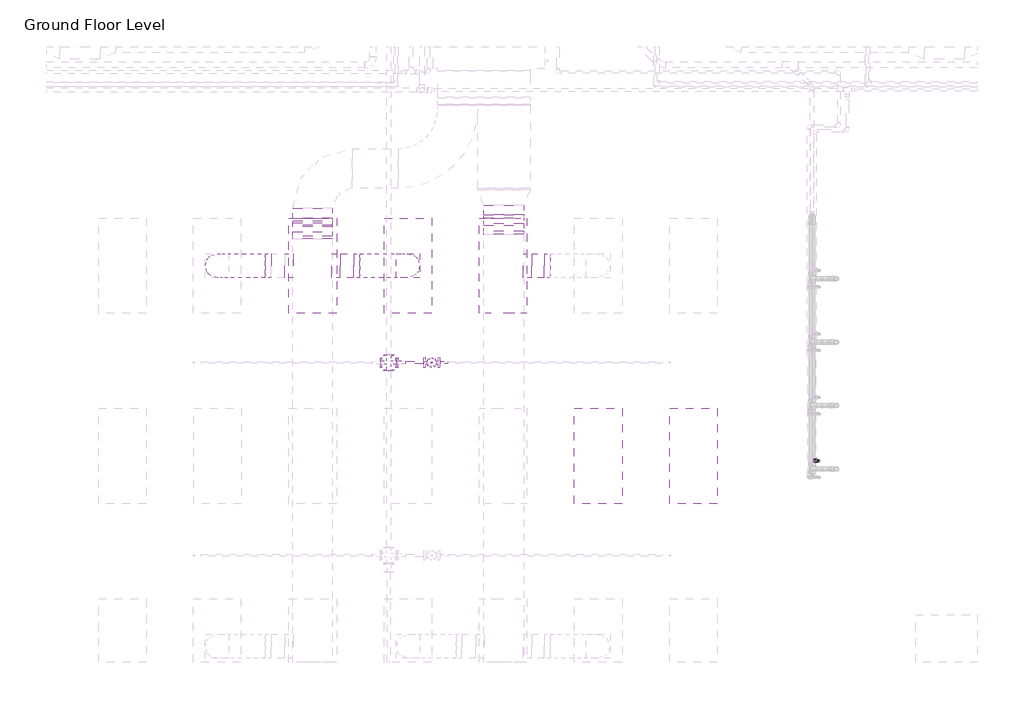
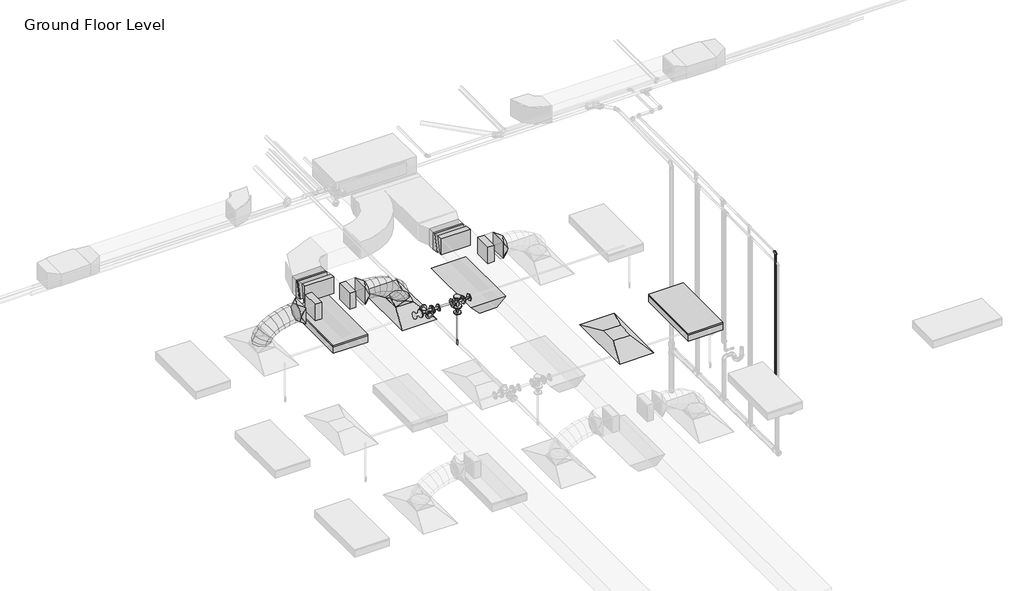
# One storey, part 49 of 74: 12 duct fittings, 8 duct segments, 7 pipe fittings, 4 pipe segments, 3 light fixtures, 2 air terminals, 1 fire suppression terminal.
"""IFC4 building model written with IfcOpenShell, lengths in millimetres."""

from ifc_helpers import new_model, si_unit, point, frame, frame_2d, origin, place, context, project, spatial, polyline, circle_curve, ellipse_curve, trimmed, segment, composite_curve, outline, extrude, transform, mapped, element, save
from ifc_brep_helpers import plane_surface, cylinder_surface, advanced_brep
from components import m_return_diffuser_1200x600_1200_x_600_face_300_x_300_d1983ef6, m_rectangular_elbow_radius_1_w_f78a0081, m_rectangular_elbow_radius_1_w_1a1d0e92, m_rectangular_takeoff_standard_cb0ccb98, m_rectangular_takeoff_standard_2be5eba1, m_rectangular_transition_angle_45_degree_8d40617b, m_rectangular_to_round_transition_angle_45_degree_641efff0, m_sprinkler_dry_pendent_hosted_15_mm_dry_pendent_9bda8e11, m_emergency_recessed_lighting_fixture_600x1200_277_5b10b25d, m_troffer_light_parabolic_rectangular1_0600x1200mm_4_lamp_86473d4a, m_cross_flanged_cs_class_150_standard_fc817054, m_reducer_flanged_cs_class_150_standard_ccf252ad, m_reducer_flanged_cs_class_150_standard_d42b2106, m_reducer_flanged_cs_class_150_standard_8338f9e4, m_tee_round_base_flanged_cs_class_150_standard_7e5987a1, standard_b266ab3f

model = new_model("IFC4")

# Units and contexts
model_context = context("Model", 3, world=origin())
ifc_project = project(units=[si_unit("LENGTHUNIT", "METRE", prefix="MILLI")], contexts=[model_context])

# Site, building, storey
site = spatial("IfcSite", under=ifc_project)
building = spatial("IfcBuilding", under=site)
storey = spatial("IfcBuildingStorey", under=building, Name="Ground Floor Level", Elevation=900.0)

# Air terminals
placement = place(None, origin())
m_return_diffuser_1200x600_1200_x_600_face_300_x_300_shape = m_return_diffuser_1200x600_1200_x_600_face_300_x_300_d1983ef6(model_context)
element("IfcAirTerminal", 1, ObjectType="M_Return Diffuser 1200x600 : 1200 x 600 Face 300 x 300 Connection", at=placement, inside=storey, context=model_context, shape_type="MappedRepresentation", body=[
    mapped(m_return_diffuser_1200x600_1200_x_600_face_300_x_300_shape, transform((-3337.2327605, 8835.2153534, 3650.0), x_axis=(0.0, 1.0, 0.0), y_axis=(-1.0, 0.0, 0.0), z_axis=(0.0, 0.0, 1.0))),
])
element("IfcAirTerminal", 2, ObjectType="M_Supply Diffuser 1200x600 : 1200 x 600 Face 300 x 300 Connection", at=placement, inside=storey, context=model_context, shape_type="MappedRepresentation", body=[
    mapped(m_return_diffuser_1200x600_1200_x_600_face_300_x_300_shape, transform((-5737.2327605, 11235.2153534, 3650.0), x_axis=(0.0, 1.0, 0.0), y_axis=(-1.0, 0.0, 0.0), z_axis=(0.0, 0.0, 1.0))),
])

# Duct fittings
m_rectangular_elbow_radius_1_w_shape = m_rectangular_elbow_radius_1_w_f78a0081(model_context)
element("IfcDuctFitting", 3, ObjectType="M_Rectangular Elbow - Radius : 1 W", at=placement, inside=storey, context=model_context, shape_type="MappedRepresentation", body=[
    mapped(m_rectangular_elbow_radius_1_w_shape, transform((-4528.6910789, 11671.1593756, 4149.9980527), x_axis=(0.0, 0.999999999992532, -3.864729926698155e-06), y_axis=(0.0, -3.864729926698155e-06, -0.999999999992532), z_axis=(-1.0, 0.0, 0.0))),
])
element("IfcDuctFitting", 4, ObjectType="M_Rectangular Elbow - Radius : 1 W", at=placement, inside=storey, context=model_context, shape_type="MappedRepresentation", body=[
    mapped(m_rectangular_elbow_radius_1_w_shape, transform((-4528.6910789, 11835.9032855, 4107.134916), x_axis=(0.0, -0.999999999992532, 3.864729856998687e-06), y_axis=(0.0, 3.864729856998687e-06, 0.999999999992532), z_axis=(-1.0, 0.0, 0.0))),
])
m_rectangular_elbow_radius_1_w_2_shape = m_rectangular_elbow_radius_1_w_1a1d0e92(model_context)
element("IfcDuctFitting", 5, ObjectType="M_Rectangular Elbow - Radius : 1 W", at=placement, inside=storey, context=model_context, shape_type="MappedRepresentation", body=[
    mapped(m_rectangular_elbow_radius_1_w_2_shape, transform((-6939.6910789, 11605.2153534, 4150.0), x_axis=(0.0, 1.0, 0.0), y_axis=(-4.8368849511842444e-06, 0.0, -0.9999999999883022), z_axis=(-0.9999999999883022, 0.0, 4.8368849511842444e-06))),
])
element("IfcDuctFitting", 6, ObjectType="M_Rectangular Elbow - Radius : 1 W", at=placement, inside=storey, context=model_context, shape_type="MappedRepresentation", body=[
    mapped(m_rectangular_elbow_radius_1_w_2_shape, transform((-6939.6912607, 11801.8710367, 4107.1399598), x_axis=(0.0, -1.0, 0.0), y_axis=(4.836885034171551e-06, 0.0, 0.9999999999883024), z_axis=(-0.9999999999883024, 0.0, 4.836885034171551e-06))),
])
m_rectangular_takeoff_standard_shape = m_rectangular_takeoff_standard_cb0ccb98(model_context)
element("IfcDuctFitting", 7, ObjectType="M_Rectangular Takeoff : Standard", at=placement, inside=storey, context=model_context, shape_type="MappedRepresentation", body=[
    mapped(m_rectangular_takeoff_standard_shape, transform((-4278.6910789, 11235.2153534, 4150.0), x_axis=(1.0, 0.0, 0.0), y_axis=(0.0, -1.0, 0.0), z_axis=(0.0, 0.0, -1.0))),
])
element("IfcDuctFitting", 8, ObjectType="M_Rectangular Takeoff : Standard", at=placement, inside=storey, context=model_context, shape_type="MappedRepresentation", body=[
    mapped(m_rectangular_takeoff_standard_shape, transform((-6689.6910789, 11235.2153534, 4150.0), x_axis=(1.0, 0.0, 0.0), y_axis=(0.0, -1.0, 0.0), z_axis=(0.0, 0.0, -1.0))),
])
m_rectangular_takeoff_standard_2_shape = m_rectangular_takeoff_standard_2be5eba1(model_context)
element("IfcDuctFitting", 9, ObjectType="M_Rectangular Takeoff : Standard", at=placement, inside=storey, context=model_context, shape_type="MappedRepresentation", body=[
    mapped(m_rectangular_takeoff_standard_2_shape, transform((-7189.6910789, 11235.2153534, 4150.0), x_axis=(-1.0, 0.0, 0.0), y_axis=(0.0, 1.0, 0.0), z_axis=(0.0, 0.0, -1.0))),
])
m_rectangular_transition_angle_45_degree_shape = m_rectangular_transition_angle_45_degree_8d40617b(model_context)
element("IfcDuctFitting", 10, ObjectType="M_Rectangular Transition - Angle : 45 Degree", at=placement, inside=storey, context=model_context, shape_type="MappedRepresentation", body=[
    mapped(m_rectangular_transition_angle_45_degree_shape, transform((-6939.6912351, 11774.1025359, 4112.4195134), x_axis=(9.034404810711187e-07, -0.9824014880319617, 0.18678146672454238), y_axis=(0.9999999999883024, 0.0, -4.836885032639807e-06), z_axis=(4.751763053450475e-06, 0.1867814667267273, 0.9824014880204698))),
])
m_rectangular_to_round_transition_angle_45_degree_shape = m_rectangular_to_round_transition_angle_45_degree_641efff0(model_context)
element("IfcDuctFitting", 11, ObjectType="M_Rectangular to Round Transition - Angle : 45 Degree", at=placement, inside=storey, context=model_context, shape_type="MappedRepresentation", body=[
    mapped(m_rectangular_to_round_transition_angle_45_degree_shape, transform((-7461.2487616, 11235.2153534, 4150.0), x_axis=(-1.0, 0.0, 0.0), y_axis=(0.0, -1.0, 0.0), z_axis=(0.0, 0.0, 1.0))),
])
element("IfcDuctFitting", 12, ObjectType="M_Rectangular to Round Transition - Angle : 45 Degree", at=placement, inside=storey, context=model_context, shape_type="MappedRepresentation", body=[
    mapped(m_rectangular_to_round_transition_angle_45_degree_shape, transform((-5737.2327605, 11235.2153534, 3751.6), x_axis=(0.0, 0.0, 1.0), y_axis=(-1.0, 0.0, 0.0), z_axis=(0.0, -1.0, 0.0))),
])
element("IfcDuctFitting", 13, ObjectType="M_Rectangular to Round Transition - Angle : 45 Degree", at=placement, inside=storey, context=model_context, shape_type="MappedRepresentation", body=[
    mapped(m_rectangular_to_round_transition_angle_45_degree_shape, transform((-6418.6686918, 11235.2153534, 4150.0), x_axis=(1.0, 0.0, 0.0), y_axis=(0.0, 1.0, 0.0), z_axis=(0.0, 0.0, 1.0))),
])
element("IfcDuctFitting", 14, ObjectType="M_Rectangular to Round Transition - Angle : 45 Degree", at=placement, inside=storey, context=model_context, shape_type="MappedRepresentation", body=[
    mapped(m_rectangular_to_round_transition_angle_45_degree_shape, transform((-4018.6725245, 11235.2153534, 4150.0), x_axis=(1.0, 0.0, 0.0), y_axis=(0.0, 1.0, 0.0), z_axis=(0.0, 0.0, 1.0))),
])

# Duct segments
element("IfcDuctSegment", 15, ObjectType="Flex - Round", at=placement, inside=storey, context=model_context, shape_type="AdvancedBrep", body=[
    advanced_brep(
    [(-7992.6846929, 11235.2153534, 3826.6), (-8142.6846929, 11085.2153534, 3826.6), (-8292.6846929, 11235.2153534, 3826.6), (-8142.6846929, 11385.2153534, 3826.6), (-7992.6846929, 11235.2153534, 3832.4838104), (-8142.6846929, 11085.2153534, 3857.3049615), (-8292.6846929, 11235.2153534, 3882.1261126), (-8142.6846929, 11385.2153534, 3857.3049615), (-7990.555208, 11235.2153534, 3838.7421096), (-8126.0232883, 11085.2153534, 3906.2708192), (-8261.4913687, 11235.2153534, 3973.7995287), (-8126.0232883, 11385.2153534, 3906.2708192), (-7968.5331802, 11235.2153534, 3871.1472855), (-8080.1452707, 11085.2153534, 3973.7798261), (-8191.7573612, 11235.2153534, 4076.4123668), (-8080.1452707, 11385.2153534, 3973.7798261), (-7928.5904556, 11235.2153534, 3903.4915826), (-8011.2099341, 11085.2153534, 4029.6013814), (-8093.8294126, 11235.2153534, 4155.7111802), (-8011.2099341, 11385.2153534, 4029.6013814), (-7865.6682729, 11235.2153534, 3936.1928758), (-7925.3765727, 11085.2153534, 4074.2098454), (-7985.0848725, 11235.2153534, 4212.226815), (-7925.3765727, 11385.2153534, 4074.2098454), (-7786.815881, 11235.2153534, 3963.8479616), (-7828.8044806, 11085.2153534, 4108.0795788), (-7870.7930803, 11235.2153534, 4252.311196), (-7828.8044806, 11385.2153534, 4108.0795788), (-7700.2438983, 11235.2153534, 3984.0509494), (-7727.652952, 11085.2153534, 4131.684942), (-7755.0620057, 11235.2153534, 4279.3189347), (-7727.652952, 11385.2153534, 4131.684942), (-7613.759715, 11235.2153534, 3996.0504424), (-7628.081281, 11085.2153534, 4145.5002956), (-7642.4028469, 11235.2153534, 4294.9501488), (-7628.081281, 11385.2153534, 4145.5002956), (-7539.5984134, 11235.2153534, 4000.0), (-7543.5898089, 11085.2153534, 4150.0), (-7547.5812043, 11235.2153534, 4300.0), (-7543.5898089, 11385.2153534, 4150.0), (-7536.2487616, 11235.2153534, 4000.0), (-7536.2487616, 11385.2153534, 4150.0), (-7536.2487616, 11235.2153534, 4300.0), (-7536.2487616, 11085.2153534, 4150.0)],
    [
        (0, 1, circle_curve(frame((-8142.6846929, 11235.2153534, 3826.6), z_axis=(0.0, 0.0, -1.0), x_axis=(1.0, 0.0, 0.0)), 150.0)),
        (1, 2, circle_curve(frame((-8142.6846929, 11235.2153534, 3826.6), z_axis=(0.0, 0.0, -1.0), x_axis=(1.0, 0.0, 0.0)), 150.0)),
        (2, 3, circle_curve(frame((-8142.6846929, 11235.2153534, 3826.6), z_axis=(0.0, 0.0, -1.0), x_axis=(1.0, 0.0, 0.0)), 150.0)),
        (3, 0, circle_curve(frame((-8142.6846929, 11235.2153534, 3826.6), z_axis=(0.0, 0.0, -1.0), x_axis=(1.0, 0.0, 0.0)), 150.0)),
        (0, 4),
        (4, 5, ellipse_curve(frame((-8142.6846929, 11235.2153534, 3857.3049615), z_axis=(-0.1632543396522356, 0.0, -0.9865840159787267), x_axis=(0.9865840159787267, 0.0, -0.16325433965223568)), 152.039763, 150.0)),
        (5, 1),
        (5, 6, ellipse_curve(frame((-8142.6846929, 11235.2153534, 3857.3049615), z_axis=(-0.1632543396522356, 0.0, -0.9865840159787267), x_axis=(0.9865840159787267, 0.0, -0.16325433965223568)), 152.039763, 150.0)),
        (6, 2),
        (6, 7, ellipse_curve(frame((-8142.6846929, 11235.2153534, 3857.3049615), z_axis=(-0.1632543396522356, 0.0, -0.9865840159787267), x_axis=(0.9865840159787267, 0.0, -0.16325433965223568)), 152.039763, 150.0)),
        (7, 3),
        (7, 4, ellipse_curve(frame((-8142.6846929, 11235.2153534, 3857.3049615), z_axis=(-0.1632543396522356, 0.0, -0.9865840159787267), x_axis=(0.9865840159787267, 0.0, -0.16325433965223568)), 152.039763, 150.0)),
        (4, 8),
        (8, 9, ellipse_curve(frame((-8126.0232883, 11235.2153534, 3906.2708192), z_axis=(-0.4461280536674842, 0.0, -0.8949691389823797), x_axis=(0.8949691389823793, 0.0, -0.4461280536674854)), 151.366203, 150.0)),
        (9, 5),
        (9, 10, ellipse_curve(frame((-8126.0232883, 11235.2153534, 3906.2708192), z_axis=(-0.4461280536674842, 0.0, -0.8949691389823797), x_axis=(0.8949691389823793, 0.0, -0.4461280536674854)), 151.366203, 150.0)),
        (10, 6),
        (10, 11, ellipse_curve(frame((-8126.0232883, 11235.2153534, 3906.2708192), z_axis=(-0.4461280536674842, 0.0, -0.8949691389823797), x_axis=(0.8949691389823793, 0.0, -0.4461280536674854)), 151.366203, 150.0)),
        (11, 7),
        (11, 8, ellipse_curve(frame((-8126.0232883, 11235.2153534, 3906.2708192), z_axis=(-0.4461280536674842, 0.0, -0.8949691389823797), x_axis=(0.8949691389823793, 0.0, -0.4461280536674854)), 151.366203, 150.0)),
        (8, 12),
        (12, 13, ellipse_curve(frame((-8080.1452707, 11235.2153534, 3973.7798261), z_axis=(-0.676875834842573, 0.0, -0.7360972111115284), x_axis=(0.7360972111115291, 0.0, -0.6768758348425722)), 151.6268352, 150.0)),
        (13, 9),
        (13, 14, ellipse_curve(frame((-8080.1452707, 11235.2153534, 3973.7798261), z_axis=(-0.676875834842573, 0.0, -0.7360972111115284), x_axis=(0.7360972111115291, 0.0, -0.6768758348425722)), 151.6268352, 150.0)),
        (14, 10),
        (14, 15, ellipse_curve(frame((-8080.1452707, 11235.2153534, 3973.7798261), z_axis=(-0.676875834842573, 0.0, -0.7360972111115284), x_axis=(0.7360972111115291, 0.0, -0.6768758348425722)), 151.6268352, 150.0)),
        (15, 11),
        (15, 12, ellipse_curve(frame((-8080.1452707, 11235.2153534, 3973.7798261), z_axis=(-0.676875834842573, 0.0, -0.7360972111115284), x_axis=(0.7360972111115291, 0.0, -0.6768758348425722)), 151.6268352, 150.0)),
        (12, 16),
        (16, 17, ellipse_curve(frame((-8011.2099341, 11235.2153534, 4029.6013814), z_axis=(-0.8364738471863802, 0.0, -0.5480068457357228), x_axis=(0.5480068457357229, 0.0, -0.8364738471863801)), 150.7635884, 150.0)),
        (17, 13),
        (17, 18, ellipse_curve(frame((-8011.2099341, 11235.2153534, 4029.6013814), z_axis=(-0.8364738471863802, 0.0, -0.5480068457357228), x_axis=(0.5480068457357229, 0.0, -0.8364738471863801)), 150.7635884, 150.0)),
        (18, 14),
        (18, 19, ellipse_curve(frame((-8011.2099341, 11235.2153534, 4029.6013814), z_axis=(-0.8364738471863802, 0.0, -0.5480068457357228), x_axis=(0.5480068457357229, 0.0, -0.8364738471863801)), 150.7635884, 150.0)),
        (19, 15),
        (19, 16, ellipse_curve(frame((-8011.2099341, 11235.2153534, 4029.6013814), z_axis=(-0.8364738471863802, 0.0, -0.5480068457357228), x_axis=(0.5480068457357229, 0.0, -0.8364738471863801)), 150.7635884, 150.0)),
        (16, 20),
        (20, 21, ellipse_curve(frame((-7925.3765727, 11235.2153534, 4074.2098454), z_axis=(-0.917795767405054, 0.0, -0.3970528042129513), x_axis=(0.3970528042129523, 0.0, -0.9177957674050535)), 150.3787384, 150.0)),
        (21, 17),
        (21, 22, ellipse_curve(frame((-7925.3765727, 11235.2153534, 4074.2098454), z_axis=(-0.917795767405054, 0.0, -0.3970528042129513), x_axis=(0.3970528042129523, 0.0, -0.9177957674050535)), 150.3787384, 150.0)),
        (22, 18),
        (22, 23, ellipse_curve(frame((-7925.3765727, 11235.2153534, 4074.2098454), z_axis=(-0.917795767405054, 0.0, -0.3970528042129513), x_axis=(0.3970528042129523, 0.0, -0.9177957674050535)), 150.3787384, 150.0)),
        (23, 19),
        (23, 20, ellipse_curve(frame((-7925.3765727, 11235.2153534, 4074.2098454), z_axis=(-0.917795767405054, 0.0, -0.3970528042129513), x_axis=(0.3970528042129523, 0.0, -0.9177957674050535)), 150.3787384, 150.0)),
        (20, 24),
        (24, 25, ellipse_curve(frame((-7828.8044806, 11235.2153534, 4108.0795788), z_axis=(-0.9601411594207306, 0.0, -0.2795155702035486), x_axis=(0.27951557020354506, 0.0, -0.9601411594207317)), 150.2191795, 150.0)),
        (25, 21),
        (25, 26, ellipse_curve(frame((-7828.8044806, 11235.2153534, 4108.0795788), z_axis=(-0.9601411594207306, 0.0, -0.2795155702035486), x_axis=(0.27951557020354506, 0.0, -0.9601411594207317)), 150.2191795, 150.0)),
        (26, 22),
        (26, 27, ellipse_curve(frame((-7828.8044806, 11235.2153534, 4108.0795788), z_axis=(-0.9601411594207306, 0.0, -0.2795155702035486), x_axis=(0.27951557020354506, 0.0, -0.9601411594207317)), 150.2191795, 150.0)),
        (27, 23),
        (27, 24, ellipse_curve(frame((-7828.8044806, 11235.2153534, 4108.0795788), z_axis=(-0.9601411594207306, 0.0, -0.2795155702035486), x_axis=(0.27951557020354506, 0.0, -0.9601411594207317)), 150.2191795, 150.0)),
        (24, 28),
        (28, 29, ellipse_curve(frame((-7727.652952, 11235.2153534, 4131.684942), z_axis=(-0.9831991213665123, 0.0, -0.1825362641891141), x_axis=(0.18253626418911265, 0.0, -0.9831991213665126)), 150.1567581, 150.0)),
        (29, 25),
        (29, 30, ellipse_curve(frame((-7727.652952, 11235.2153534, 4131.684942), z_axis=(-0.9831991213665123, 0.0, -0.1825362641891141), x_axis=(0.18253626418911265, 0.0, -0.9831991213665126)), 150.1567581, 150.0)),
        (30, 26),
        (30, 31, ellipse_curve(frame((-7727.652952, 11235.2153534, 4131.684942), z_axis=(-0.9831991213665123, 0.0, -0.1825362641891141), x_axis=(0.18253626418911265, 0.0, -0.9831991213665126)), 150.1567581, 150.0)),
        (31, 27),
        (31, 28, ellipse_curve(frame((-7727.652952, 11235.2153534, 4131.684942), z_axis=(-0.9831991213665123, 0.0, -0.1825362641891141), x_axis=(0.18253626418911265, 0.0, -0.9831991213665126)), 150.1567581, 150.0)),
        (28, 32),
        (32, 33, ellipse_curve(frame((-7628.081281, 11235.2153534, 4145.5002956), z_axis=(-0.9954398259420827, 0.0, -0.09539157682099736), x_axis=(0.09539157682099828, 0.0, -0.9954398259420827)), 150.1344926, 150.0)),
        (33, 29),
        (33, 34, ellipse_curve(frame((-7628.081281, 11235.2153534, 4145.5002956), z_axis=(-0.9954398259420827, 0.0, -0.09539157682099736), x_axis=(0.09539157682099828, 0.0, -0.9954398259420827)), 150.1344926, 150.0)),
        (34, 30),
        (34, 35, ellipse_curve(frame((-7628.081281, 11235.2153534, 4145.5002956), z_axis=(-0.9954398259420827, 0.0, -0.09539157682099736), x_axis=(0.09539157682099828, 0.0, -0.9954398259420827)), 150.1344926, 150.0)),
        (35, 31),
        (35, 32, ellipse_curve(frame((-7628.081281, 11235.2153534, 4145.5002956), z_axis=(-0.9954398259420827, 0.0, -0.09539157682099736), x_axis=(0.09539157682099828, 0.0, -0.9954398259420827)), 150.1344926, 150.0)),
        (32, 36),
        (36, 37, ellipse_curve(frame((-7543.5898089, 11235.2153534, 4150.0), z_axis=(-0.9996461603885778, 0.0, -0.026599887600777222), x_axis=(0.026599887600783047, 0.0, -0.9996461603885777)), 150.0530947, 150.0)),
        (37, 33),
        (37, 38, ellipse_curve(frame((-7543.5898089, 11235.2153534, 4150.0), z_axis=(-0.9996461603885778, 0.0, -0.026599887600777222), x_axis=(0.026599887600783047, 0.0, -0.9996461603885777)), 150.0530947, 150.0)),
        (38, 34),
        (38, 39, ellipse_curve(frame((-7543.5898089, 11235.2153534, 4150.0), z_axis=(-0.9996461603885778, 0.0, -0.026599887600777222), x_axis=(0.026599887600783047, 0.0, -0.9996461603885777)), 150.0530947, 150.0)),
        (39, 35),
        (39, 36, ellipse_curve(frame((-7543.5898089, 11235.2153534, 4150.0), z_axis=(-0.9996461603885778, 0.0, -0.026599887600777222), x_axis=(0.026599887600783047, 0.0, -0.9996461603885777)), 150.0530947, 150.0)),
        (40, 41, circle_curve(frame((-7536.2487616, 11235.2153534, 4150.0), z_axis=(1.0, 0.0, 0.0), x_axis=(0.0, 0.0, -1.0)), 150.0)),
        (41, 42, circle_curve(frame((-7536.2487616, 11235.2153534, 4150.0), z_axis=(1.0, 0.0, 0.0), x_axis=(0.0, 0.0, -1.0)), 150.0)),
        (42, 43, circle_curve(frame((-7536.2487616, 11235.2153534, 4150.0), z_axis=(1.0, 0.0, 0.0), x_axis=(0.0, 0.0, -1.0)), 150.0)),
        (43, 40, circle_curve(frame((-7536.2487616, 11235.2153534, 4150.0), z_axis=(1.0, 0.0, 0.0), x_axis=(0.0, 0.0, -1.0)), 150.0)),
        (36, 40),
        (43, 37),
        (42, 38),
        (41, 39),
    ],
    [
        plane_surface(frame((-8142.6846929, 11085.2153534, 3826.6), z_axis=(0.0, 0.0, -1.0), x_axis=(1.0, 0.0, 0.0))),
        cylinder_surface(frame((-8142.6846929, 11235.2153534, 3826.6), z_axis=(0.0, 0.0, -1.0), x_axis=(1.0, 0.0, 0.0)), 150.0),
        cylinder_surface(frame((-8142.6846929, 11235.2153534, 3857.3049615), z_axis=(-0.32212824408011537, 0.0, -0.946696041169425), x_axis=(0.946696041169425, 0.0, -0.32212824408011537)), 150.0),
        cylinder_surface(frame((-8126.0232883, 11235.2153534, 3906.2708192), z_axis=(-0.5620745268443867, 0.0, -0.8270865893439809), x_axis=(0.8270865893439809, 0.0, -0.5620745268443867)), 150.0),
        cylinder_surface(frame((-8080.1452707, 11235.2153534, 3973.7798261), z_axis=(-0.777152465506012, 0.0, -0.6293123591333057), x_axis=(0.6293123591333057, 0.0, -0.777152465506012)), 150.0),
        cylinder_surface(frame((-8011.2099341, 11235.2153534, 4029.6013814), z_axis=(-0.887322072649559, 0.0, -0.4611502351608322), x_axis=(0.4611502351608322, 0.0, -0.887322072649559)), 150.0),
        cylinder_surface(frame((-7925.3765727, 11235.2153534, 4074.2098454), z_axis=(-0.9436464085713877, 0.0, -0.3309553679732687), x_axis=(0.3309553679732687, 0.0, -0.9436464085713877)), 150.0),
        cylinder_surface(frame((-7828.8044806, 11235.2153534, 4108.0795788), z_axis=(-0.9738340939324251, 0.0, -0.2272601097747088), x_axis=(0.2272601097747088, 0.0, -0.9738340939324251)), 150.0),
        cylinder_surface(frame((-7727.652952, 11235.2153534, 4131.684942), z_axis=(-0.9905113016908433, 0.0, -0.1374312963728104), x_axis=(0.1374312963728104, 0.0, -0.9905113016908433)), 150.0),
        cylinder_surface(frame((-7628.081281, 11235.2153534, 4145.5002956), z_axis=(-0.998584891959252, 0.0, -0.05318095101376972), x_axis=(0.05318095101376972, 0.0, -0.998584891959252)), 150.0),
        plane_surface(frame((-7536.2487616, 11235.2153534, 4000.0), z_axis=(1.0, 0.0, 0.0), x_axis=(0.0, 1.0, 0.0))),
        cylinder_surface(frame((-7543.5898089, 11235.2153534, 4150.0), z_axis=(-1.0, 0.0, 0.0), x_axis=(0.0, 0.0, -1.0)), 150.0),
    ],
    [
        (0, [[1, 2, 3, 4]]),
        (1, [[-1, 5, 6, 7]]),
        (1, [[-2, -7, 8, 9]]),
        (1, [[-3, -9, 10, 11]]),
        (1, [[-4, -11, 12, -5]]),
        (2, [[-6, 13, 14, 15]]),
        (2, [[-8, -15, 16, 17]]),
        (2, [[-10, -17, 18, 19]]),
        (2, [[-12, -19, 20, -13]]),
        (3, [[-14, 21, 22, 23]]),
        (3, [[-16, -23, 24, 25]]),
        (3, [[-18, -25, 26, 27]]),
        (3, [[-20, -27, 28, -21]]),
        (4, [[-22, 29, 30, 31]]),
        (4, [[-24, -31, 32, 33]]),
        (4, [[-26, -33, 34, 35]]),
        (4, [[-28, -35, 36, -29]]),
        (5, [[-30, 37, 38, 39]]),
        (5, [[-32, -39, 40, 41]]),
        (5, [[-34, -41, 42, 43]]),
        (5, [[-36, -43, 44, -37]]),
        (6, [[-38, 45, 46, 47]]),
        (6, [[-40, -47, 48, 49]]),
        (6, [[-42, -49, 50, 51]]),
        (6, [[-44, -51, 52, -45]]),
        (7, [[-46, 53, 54, 55]]),
        (7, [[-48, -55, 56, 57]]),
        (7, [[-50, -57, 58, 59]]),
        (7, [[-52, -59, 60, -53]]),
        (8, [[-54, 61, 62, 63]]),
        (8, [[-56, -63, 64, 65]]),
        (8, [[-58, -65, 66, 67]]),
        (8, [[-60, -67, 68, -61]]),
        (9, [[-62, 69, 70, 71]]),
        (9, [[-64, -71, 72, 73]]),
        (9, [[-66, -73, 74, 75]]),
        (9, [[-68, -75, 76, -69]]),
        (10, [[77, 78, 79, 80]]),
        (11, [[-70, 81, -80, 82]]),
        (11, [[-72, -82, -79, 83]]),
        (11, [[-74, -83, -78, 84]]),
        (11, [[-76, -84, -77, -81]]),
    ],
),
])
element("IfcDuctSegment", 16, ObjectType="Flex - Round", at=placement, inside=storey, context=model_context, shape_type="AdvancedBrep", body=[
    advanced_brep(
    [(-5587.2327605, 11235.2153534, 3826.6), (-5737.2327605, 11085.2153534, 3826.6), (-5887.2327605, 11235.2153534, 3826.6), (-5737.2327605, 11385.2153534, 3826.6), (-5587.2327605, 11235.2153534, 3882.1261126), (-5737.2327605, 11085.2153534, 3857.3049615), (-5887.2327605, 11235.2153534, 3832.4838104), (-5737.2327605, 11385.2153534, 3857.3049615), (-5618.4260847, 11235.2153534, 3973.7995287), (-5753.8941651, 11085.2153534, 3906.2708192), (-5889.3622454, 11235.2153534, 3838.7421096), (-5753.8941651, 11385.2153534, 3906.2708192), (-5688.1600922, 11235.2153534, 4076.4123668), (-5799.7721827, 11085.2153534, 3973.7798261), (-5911.3842733, 11235.2153534, 3871.1472855), (-5799.7721827, 11385.2153534, 3973.7798261), (-5786.0880408, 11235.2153534, 4155.7111802), (-5868.7075193, 11085.2153534, 4029.6013814), (-5951.3269979, 11235.2153534, 3903.4915826), (-5868.7075193, 11385.2153534, 4029.6013814), (-5894.832581, 11235.2153534, 4212.226815), (-5954.5408807, 11085.2153534, 4074.2098454), (-6014.2491805, 11235.2153534, 3936.1928758), (-5954.5408807, 11385.2153534, 4074.2098454), (-6009.1243732, 11235.2153534, 4252.311196), (-6051.1129728, 11085.2153534, 4108.0795788), (-6093.1015724, 11235.2153534, 3963.8479616), (-6051.1129728, 11385.2153534, 4108.0795788), (-6124.8554478, 11235.2153534, 4279.3189347), (-6152.2645014, 11085.2153534, 4131.684942), (-6179.6735551, 11235.2153534, 3984.0509494), (-6152.2645014, 11385.2153534, 4131.684942), (-6237.5146065, 11235.2153534, 4294.9501488), (-6251.8361725, 11085.2153534, 4145.5002956), (-6266.1577385, 11235.2153534, 3996.0504424), (-6251.8361725, 11385.2153534, 4145.5002956), (-6332.3362491, 11235.2153534, 4300.0), (-6336.3276445, 11085.2153534, 4150.0), (-6340.31904, 11235.2153534, 4000.0), (-6336.3276445, 11385.2153534, 4150.0), (-6343.6686918, 11235.2153534, 4300.0), (-6343.6686918, 11385.2153534, 4150.0), (-6343.6686918, 11235.2153534, 4000.0), (-6343.6686918, 11085.2153534, 4150.0)],
    [
        (0, 1, circle_curve(frame((-5737.2327605, 11235.2153534, 3826.6), z_axis=(0.0, 0.0, -1.0), x_axis=(1.0, 0.0, 0.0)), 150.0)),
        (1, 2, circle_curve(frame((-5737.2327605, 11235.2153534, 3826.6), z_axis=(0.0, 0.0, -1.0), x_axis=(1.0, 0.0, 0.0)), 150.0)),
        (2, 3, circle_curve(frame((-5737.2327605, 11235.2153534, 3826.6), z_axis=(0.0, 0.0, -1.0), x_axis=(1.0, 0.0, 0.0)), 150.0)),
        (3, 0, circle_curve(frame((-5737.2327605, 11235.2153534, 3826.6), z_axis=(0.0, 0.0, -1.0), x_axis=(1.0, 0.0, 0.0)), 150.0)),
        (0, 4),
        (4, 5, ellipse_curve(frame((-5737.2327605, 11235.2153534, 3857.3049615), z_axis=(0.1632543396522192, 0.0, -0.9865840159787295), x_axis=(-0.9865840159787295, 0.0, -0.16325433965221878)), 152.039763, 150.0)),
        (5, 1),
        (5, 6, ellipse_curve(frame((-5737.2327605, 11235.2153534, 3857.3049615), z_axis=(0.1632543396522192, 0.0, -0.9865840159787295), x_axis=(-0.9865840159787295, 0.0, -0.16325433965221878)), 152.039763, 150.0)),
        (6, 2),
        (6, 7, ellipse_curve(frame((-5737.2327605, 11235.2153534, 3857.3049615), z_axis=(0.1632543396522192, 0.0, -0.9865840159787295), x_axis=(-0.9865840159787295, 0.0, -0.16325433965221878)), 152.039763, 150.0)),
        (7, 3),
        (7, 4, ellipse_curve(frame((-5737.2327605, 11235.2153534, 3857.3049615), z_axis=(0.1632543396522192, 0.0, -0.9865840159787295), x_axis=(-0.9865840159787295, 0.0, -0.16325433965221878)), 152.039763, 150.0)),
        (4, 8),
        (8, 9, ellipse_curve(frame((-5753.8941651, 11235.2153534, 3906.2708192), z_axis=(0.44612805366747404, 0.0, -0.8949691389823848), x_axis=(-0.8949691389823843, 0.0, -0.44612805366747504)), 151.366203, 150.0)),
        (9, 5),
        (9, 10, ellipse_curve(frame((-5753.8941651, 11235.2153534, 3906.2708192), z_axis=(0.44612805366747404, 0.0, -0.8949691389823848), x_axis=(-0.8949691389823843, 0.0, -0.44612805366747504)), 151.366203, 150.0)),
        (10, 6),
        (10, 11, ellipse_curve(frame((-5753.8941651, 11235.2153534, 3906.2708192), z_axis=(0.44612805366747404, 0.0, -0.8949691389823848), x_axis=(-0.8949691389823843, 0.0, -0.44612805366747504)), 151.366203, 150.0)),
        (11, 7),
        (11, 8, ellipse_curve(frame((-5753.8941651, 11235.2153534, 3906.2708192), z_axis=(0.44612805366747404, 0.0, -0.8949691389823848), x_axis=(-0.8949691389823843, 0.0, -0.44612805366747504)), 151.366203, 150.0)),
        (8, 12),
        (12, 13, ellipse_curve(frame((-5799.7721827, 11235.2153534, 3973.7798261), z_axis=(0.6768758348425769, 0.0, -0.7360972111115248), x_axis=(-0.7360972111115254, 0.0, -0.6768758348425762)), 151.6268352, 150.0)),
        (13, 9),
        (13, 14, ellipse_curve(frame((-5799.7721827, 11235.2153534, 3973.7798261), z_axis=(0.6768758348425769, 0.0, -0.7360972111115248), x_axis=(-0.7360972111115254, 0.0, -0.6768758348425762)), 151.6268352, 150.0)),
        (14, 10),
        (14, 15, ellipse_curve(frame((-5799.7721827, 11235.2153534, 3973.7798261), z_axis=(0.6768758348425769, 0.0, -0.7360972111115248), x_axis=(-0.7360972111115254, 0.0, -0.6768758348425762)), 151.6268352, 150.0)),
        (15, 11),
        (15, 12, ellipse_curve(frame((-5799.7721827, 11235.2153534, 3973.7798261), z_axis=(0.6768758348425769, 0.0, -0.7360972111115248), x_axis=(-0.7360972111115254, 0.0, -0.6768758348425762)), 151.6268352, 150.0)),
        (12, 16),
        (16, 17, ellipse_curve(frame((-5868.7075193, 11235.2153534, 4029.6013814), z_axis=(0.8364738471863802, 0.0, -0.5480068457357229), x_axis=(-0.5480068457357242, 0.0, -0.8364738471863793)), 150.7635884, 150.0)),
        (17, 13),
        (17, 18, ellipse_curve(frame((-5868.7075193, 11235.2153534, 4029.6013814), z_axis=(0.8364738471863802, 0.0, -0.5480068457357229), x_axis=(-0.5480068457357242, 0.0, -0.8364738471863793)), 150.7635884, 150.0)),
        (18, 14),
        (18, 19, ellipse_curve(frame((-5868.7075193, 11235.2153534, 4029.6013814), z_axis=(0.8364738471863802, 0.0, -0.5480068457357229), x_axis=(-0.5480068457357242, 0.0, -0.8364738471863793)), 150.7635884, 150.0)),
        (19, 15),
        (19, 16, ellipse_curve(frame((-5868.7075193, 11235.2153534, 4029.6013814), z_axis=(0.8364738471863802, 0.0, -0.5480068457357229), x_axis=(-0.5480068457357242, 0.0, -0.8364738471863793)), 150.7635884, 150.0)),
        (16, 20),
        (20, 21, ellipse_curve(frame((-5954.5408807, 11235.2153534, 4074.2098454), z_axis=(0.9177957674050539, 0.0, -0.39705280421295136), x_axis=(-0.39705280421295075, 0.0, -0.9177957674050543)), 150.3787384, 150.0)),
        (21, 17),
        (21, 22, ellipse_curve(frame((-5954.5408807, 11235.2153534, 4074.2098454), z_axis=(0.9177957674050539, 0.0, -0.39705280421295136), x_axis=(-0.39705280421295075, 0.0, -0.9177957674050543)), 150.3787384, 150.0)),
        (22, 18),
        (22, 23, ellipse_curve(frame((-5954.5408807, 11235.2153534, 4074.2098454), z_axis=(0.9177957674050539, 0.0, -0.39705280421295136), x_axis=(-0.39705280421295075, 0.0, -0.9177957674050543)), 150.3787384, 150.0)),
        (23, 19),
        (23, 20, ellipse_curve(frame((-5954.5408807, 11235.2153534, 4074.2098454), z_axis=(0.9177957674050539, 0.0, -0.39705280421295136), x_axis=(-0.39705280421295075, 0.0, -0.9177957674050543)), 150.3787384, 150.0)),
        (20, 24),
        (24, 25, ellipse_curve(frame((-6051.1129728, 11235.2153534, 4108.0795788), z_axis=(0.9601411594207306, 0.0, -0.2795155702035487), x_axis=(-0.27951557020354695, 0.0, -0.9601411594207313)), 150.2191795, 150.0)),
        (25, 21),
        (25, 26, ellipse_curve(frame((-6051.1129728, 11235.2153534, 4108.0795788), z_axis=(0.9601411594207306, 0.0, -0.2795155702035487), x_axis=(-0.27951557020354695, 0.0, -0.9601411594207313)), 150.2191795, 150.0)),
        (26, 22),
        (26, 27, ellipse_curve(frame((-6051.1129728, 11235.2153534, 4108.0795788), z_axis=(0.9601411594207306, 0.0, -0.2795155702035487), x_axis=(-0.27951557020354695, 0.0, -0.9601411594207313)), 150.2191795, 150.0)),
        (27, 23),
        (27, 24, ellipse_curve(frame((-6051.1129728, 11235.2153534, 4108.0795788), z_axis=(0.9601411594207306, 0.0, -0.2795155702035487), x_axis=(-0.27951557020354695, 0.0, -0.9601411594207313)), 150.2191795, 150.0)),
        (24, 28),
        (28, 29, ellipse_curve(frame((-6152.2645014, 11235.2153534, 4131.684942), z_axis=(0.9831991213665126, 0.0, -0.1825362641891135), x_axis=(-0.1825362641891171, 0.0, -0.9831991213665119)), 150.1567581, 150.0)),
        (29, 25),
        (29, 30, ellipse_curve(frame((-6152.2645014, 11235.2153534, 4131.684942), z_axis=(0.9831991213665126, 0.0, -0.1825362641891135), x_axis=(-0.1825362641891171, 0.0, -0.9831991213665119)), 150.1567581, 150.0)),
        (30, 26),
        (30, 31, ellipse_curve(frame((-6152.2645014, 11235.2153534, 4131.684942), z_axis=(0.9831991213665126, 0.0, -0.1825362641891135), x_axis=(-0.1825362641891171, 0.0, -0.9831991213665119)), 150.1567581, 150.0)),
        (31, 27),
        (31, 28, ellipse_curve(frame((-6152.2645014, 11235.2153534, 4131.684942), z_axis=(0.9831991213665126, 0.0, -0.1825362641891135), x_axis=(-0.1825362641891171, 0.0, -0.9831991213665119)), 150.1567581, 150.0)),
        (28, 32),
        (32, 33, ellipse_curve(frame((-6251.8361725, 11235.2153534, 4145.5002956), z_axis=(0.9954398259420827, 0.0, -0.09539157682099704), x_axis=(-0.09539157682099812, 0.0, -0.9954398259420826)), 150.1344926, 150.0)),
        (33, 29),
        (33, 34, ellipse_curve(frame((-6251.8361725, 11235.2153534, 4145.5002956), z_axis=(0.9954398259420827, 0.0, -0.09539157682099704), x_axis=(-0.09539157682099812, 0.0, -0.9954398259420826)), 150.1344926, 150.0)),
        (34, 30),
        (34, 35, ellipse_curve(frame((-6251.8361725, 11235.2153534, 4145.5002956), z_axis=(0.9954398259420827, 0.0, -0.09539157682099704), x_axis=(-0.09539157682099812, 0.0, -0.9954398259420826)), 150.1344926, 150.0)),
        (35, 31),
        (35, 32, ellipse_curve(frame((-6251.8361725, 11235.2153534, 4145.5002956), z_axis=(0.9954398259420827, 0.0, -0.09539157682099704), x_axis=(-0.09539157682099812, 0.0, -0.9954398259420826)), 150.1344926, 150.0)),
        (32, 36),
        (36, 37, ellipse_curve(frame((-6336.3276445, 11235.2153534, 4150.0), z_axis=(0.9996461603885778, 0.0, -0.026599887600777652), x_axis=(-0.026599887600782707, 0.0, -0.9996461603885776)), 150.0530947, 150.0)),
        (37, 33),
        (37, 38, ellipse_curve(frame((-6336.3276445, 11235.2153534, 4150.0), z_axis=(0.9996461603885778, 0.0, -0.026599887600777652), x_axis=(-0.026599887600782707, 0.0, -0.9996461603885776)), 150.0530947, 150.0)),
        (38, 34),
        (38, 39, ellipse_curve(frame((-6336.3276445, 11235.2153534, 4150.0), z_axis=(0.9996461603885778, 0.0, -0.026599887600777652), x_axis=(-0.026599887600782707, 0.0, -0.9996461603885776)), 150.0530947, 150.0)),
        (39, 35),
        (39, 36, ellipse_curve(frame((-6336.3276445, 11235.2153534, 4150.0), z_axis=(0.9996461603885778, 0.0, -0.026599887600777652), x_axis=(-0.026599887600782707, 0.0, -0.9996461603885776)), 150.0530947, 150.0)),
        (40, 41, circle_curve(frame((-6343.6686918, 11235.2153534, 4150.0), z_axis=(-1.0, 0.0, 0.0), x_axis=(0.0, 0.0, 1.0)), 150.0)),
        (41, 42, circle_curve(frame((-6343.6686918, 11235.2153534, 4150.0), z_axis=(-1.0, 0.0, 0.0), x_axis=(0.0, 0.0, 1.0)), 150.0)),
        (42, 43, circle_curve(frame((-6343.6686918, 11235.2153534, 4150.0), z_axis=(-1.0, 0.0, 0.0), x_axis=(0.0, 0.0, 1.0)), 150.0)),
        (43, 40, circle_curve(frame((-6343.6686918, 11235.2153534, 4150.0), z_axis=(-1.0, 0.0, 0.0), x_axis=(0.0, 0.0, 1.0)), 150.0)),
        (36, 40),
        (43, 37),
        (42, 38),
        (41, 39),
    ],
    [
        plane_surface(frame((-5737.2327605, 11085.2153534, 3826.6), z_axis=(0.0, 0.0, -1.0), x_axis=(1.0, 0.0, 0.0))),
        cylinder_surface(frame((-5737.2327605, 11235.2153534, 3826.6), z_axis=(0.0, 0.0, -1.0), x_axis=(1.0, 0.0, 0.0)), 150.0),
        cylinder_surface(frame((-5737.2327605, 11235.2153534, 3857.3049615), z_axis=(0.32212824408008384, 0.0, -0.9466960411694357), x_axis=(0.9466960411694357, 0.0, 0.32212824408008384)), 150.0),
        cylinder_surface(frame((-5753.8941651, 11235.2153534, 3906.2708192), z_axis=(0.5620745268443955, 0.0, -0.8270865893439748), x_axis=(0.8270865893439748, 0.0, 0.5620745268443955)), 150.0),
        cylinder_surface(frame((-5799.7721827, 11235.2153534, 3973.7798261), z_axis=(0.777152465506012, 0.0, -0.6293123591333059), x_axis=(0.6293123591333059, 0.0, 0.777152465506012)), 150.0),
        cylinder_surface(frame((-5868.7075193, 11235.2153534, 4029.6013814), z_axis=(0.887322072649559, 0.0, -0.4611502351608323), x_axis=(0.4611502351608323, 0.0, 0.887322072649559)), 150.0),
        cylinder_surface(frame((-5954.5408807, 11235.2153534, 4074.2098454), z_axis=(0.9436464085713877, 0.0, -0.3309553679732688), x_axis=(0.3309553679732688, 0.0, 0.9436464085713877)), 150.0),
        cylinder_surface(frame((-6051.1129728, 11235.2153534, 4108.0795788), z_axis=(0.9738340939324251, 0.0, -0.22726010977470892), x_axis=(0.22726010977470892, 0.0, 0.9738340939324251)), 150.0),
        cylinder_surface(frame((-6152.2645014, 11235.2153534, 4131.684942), z_axis=(0.9905113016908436, 0.0, -0.137431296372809), x_axis=(0.137431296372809, 0.0, 0.9905113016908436)), 150.0),
        cylinder_surface(frame((-6251.8361725, 11235.2153534, 4145.5002956), z_axis=(0.998584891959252, 0.0, -0.05318095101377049), x_axis=(0.05318095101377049, 0.0, 0.998584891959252)), 150.0),
        plane_surface(frame((-6343.6686918, 11235.2153534, 4000.0), z_axis=(-1.0, 0.0, 0.0), x_axis=(0.0, -1.0, 0.0))),
        cylinder_surface(frame((-6336.3276445, 11235.2153534, 4150.0), z_axis=(1.0, 0.0, 0.0), x_axis=(0.0, 0.0, 1.0)), 150.0),
    ],
    [
        (0, [[1, 2, 3, 4]]),
        (1, [[-1, 5, 6, 7]]),
        (1, [[-2, -7, 8, 9]]),
        (1, [[-3, -9, 10, 11]]),
        (1, [[-4, -11, 12, -5]]),
        (2, [[-6, 13, 14, 15]]),
        (2, [[-8, -15, 16, 17]]),
        (2, [[-10, -17, 18, 19]]),
        (2, [[-12, -19, 20, -13]]),
        (3, [[-14, 21, 22, 23]]),
        (3, [[-16, -23, 24, 25]]),
        (3, [[-18, -25, 26, 27]]),
        (3, [[-20, -27, 28, -21]]),
        (4, [[-22, 29, 30, 31]]),
        (4, [[-24, -31, 32, 33]]),
        (4, [[-26, -33, 34, 35]]),
        (4, [[-28, -35, 36, -29]]),
        (5, [[-30, 37, 38, 39]]),
        (5, [[-32, -39, 40, 41]]),
        (5, [[-34, -41, 42, 43]]),
        (5, [[-36, -43, 44, -37]]),
        (6, [[-38, 45, 46, 47]]),
        (6, [[-40, -47, 48, 49]]),
        (6, [[-42, -49, 50, 51]]),
        (6, [[-44, -51, 52, -45]]),
        (7, [[-46, 53, 54, 55]]),
        (7, [[-48, -55, 56, 57]]),
        (7, [[-50, -57, 58, 59]]),
        (7, [[-52, -59, 60, -53]]),
        (8, [[-54, 61, 62, 63]]),
        (8, [[-56, -63, 64, 65]]),
        (8, [[-58, -65, 66, 67]]),
        (8, [[-60, -67, 68, -61]]),
        (9, [[-62, 69, 70, 71]]),
        (9, [[-64, -71, 72, 73]]),
        (9, [[-66, -73, 74, 75]]),
        (9, [[-68, -75, 76, -69]]),
        (10, [[77, 78, 79, 80]]),
        (11, [[-70, 81, -80, 82]]),
        (11, [[-72, -82, -79, 83]]),
        (11, [[-74, -83, -78, 84]]),
        (11, [[-76, -84, -77, -81]]),
    ],
),
])
element("IfcDuctSegment", 17, ObjectType="Radius Elbows / Taps", at=placement, inside=storey, context=model_context, shape_type="SweptSolid", body=[
    extrude(outline(polyline([(-4177.0910789, 11085.2153534), (-4177.0910789, 11385.2153534), (-4018.6725245, 11385.2153534), (-4018.6725245, 11085.2153534), (-4177.0910789, 11085.2153534)])), frame((0.0, 0.0, 4000.0), z_axis=(0.0, 0.0, 1.0), x_axis=(1.0, 0.0, 0.0)), (0.0, 0.0, 1.0), 300.0),
])
element("IfcDuctSegment", 18, ObjectType="Radius Elbows / Taps", at=placement, inside=storey, context=model_context, shape_type="SweptSolid", body=[
    extrude(outline(polyline([(-6588.0910789, 11085.2153534), (-6588.0910789, 11385.2153534), (-6418.6686918, 11385.2153534), (-6418.6686918, 11085.2153534), (-6588.0910789, 11085.2153534)])), frame((0.0, 0.0, 4000.0), z_axis=(0.0, 0.0, 1.0), x_axis=(1.0, 0.0, 0.0)), (0.0, 0.0, 1.0), 300.0),
])
element("IfcDuctSegment", 19, ObjectType="Radius Elbows / Taps", at=placement, inside=storey, context=model_context, shape_type="SweptSolid", body=[
    extrude(outline(polyline([(-7189.6912607, 11959.4153535), (-6689.6912607, 11959.4153535), (-6689.6912607, 11830.1369759), (-7189.6912607, 11830.1369759), (-7189.6912607, 11959.4153535)])), frame((0.0, 0.0, 3957.1399598), z_axis=(0.0, 0.0, 1.0), x_axis=(1.0, 0.0, 0.0)), (0.0, 0.0, 1.0), 300.0),
])
element("IfcDuctSegment", 20, ObjectType="Radius Elbows / Taps", at=placement, inside=storey, context=model_context, shape_type="SweptSolid", body=[
    extrude(outline(polyline([(-4778.6910789, 11996.8633064), (-4278.6910789, 11996.8633064), (-4278.6910789, 11874.2907355), (-4778.6910789, 11874.2907355), (-4778.6910789, 11996.8633064)])), frame((0.0, 0.0, 3957.1342939), z_axis=(0.0, 0.0, 1.0), x_axis=(1.0, 0.0, 0.0)), (0.0, 0.0, 1.0), 300.0),
])
element("IfcDuctSegment", 21, ObjectType="Radius Elbows / Taps", at=placement, inside=storey, context=model_context, shape_type="SweptSolid", body=[
    extrude(outline(polyline([(0.0, -500.0), (0.0, 0.0), (93.4537824, 0.0), (93.4537824, -500.0), (0.0, -500.0)])), frame((-4778.6910789, 11670.5403736, 3995.1651971), z_axis=(0.0, 0.25179738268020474, 0.9677799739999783), x_axis=(0.0, 0.9677799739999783, -0.25179738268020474)), (0.0, 0.0, 1.0), 300.0),
])
element("IfcDuctSegment", 22, ObjectType="Radius Elbows / Taps", at=placement, inside=storey, context=model_context, shape_type="SweptSolid", body=[
    extrude(outline(polyline([(-1e-07, -500.0), (0.0, 0.0), (119.6684185, 0.0), (119.6684185, -500.0), (-1e-07, -500.0)])), frame((-7189.6911044, 11604.9664123, 3997.3602654), z_axis=(0.0, 0.186781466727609, 0.9824014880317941), x_axis=(-9.034404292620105e-07, 0.982401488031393, -0.18678146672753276)), (0.0, 0.0, 1.0), 300.0),
])

# Fire suppression terminal
m_sprinkler_dry_pendent_hosted_15_mm_dry_pendent_shape = m_sprinkler_dry_pendent_hosted_15_mm_dry_pendent_9bda8e11(model_context)
element("IfcFireSuppressionTerminal", 23, ObjectType="M_Sprinkler - Dry - Pendent - Hosted : 15 mm Dry Pendent", at=placement, inside=storey, context=model_context, shape_type="MappedRepresentation", body=[
    mapped(m_sprinkler_dry_pendent_hosted_15_mm_dry_pendent_shape, transform((-5437.2327605, 10013.008259, 3650.0), x_axis=(1.0, 0.0, 0.0), y_axis=(0.0, -1.0, 0.0), z_axis=(0.0, 0.0, -1.0))),
])

# Light fixtures
m_emergency_recessed_lighting_fixture_600x1200_277_shape = m_emergency_recessed_lighting_fixture_600x1200_277_5b10b25d(model_context)
element("IfcLightFixture", 24, ObjectType="M_Emergency Recessed Lighting Fixture : 600x1200 - 277", at=placement, inside=storey, context=model_context, shape_type="MappedRepresentation", body=[
    mapped(m_emergency_recessed_lighting_fixture_600x1200_277_shape, transform((-4837.2327605, 10635.2153534, 3650.0), x_axis=(0.0, 1.0, 0.0), y_axis=(-1.0, 0.0, 0.0), z_axis=(0.0, 0.0, 1.0))),
])
m_troffer_light_parabolic_rectangular1_0600x1200mm_4_lamp_shape = m_troffer_light_parabolic_rectangular1_0600x1200mm_4_lamp_86473d4a(model_context)
element("IfcLightFixture", 25, ObjectType="M_Troffer Light - Parabolic Rectangular1 : 0600x1200mm(4 Lamp) - 277V 2", at=placement, inside=storey, context=model_context, shape_type="MappedRepresentation", body=[
    mapped(m_troffer_light_parabolic_rectangular1_0600x1200mm_4_lamp_shape, transform((-6996.6986926, 11253.918855, 3650.0), x_axis=(0.0, 1.0, 0.0), y_axis=(-1.0, 0.0, 0.0), z_axis=(0.0, 0.0, 1.0))),
])
element("IfcLightFixture", 26, ObjectType="M_Troffer Light - Parabolic Rectangular1 : 0600x1200mm(4 Lamp) - 277V 2", at=placement, inside=storey, context=model_context, shape_type="MappedRepresentation", body=[
    mapped(m_troffer_light_parabolic_rectangular1_0600x1200mm_4_lamp_shape, transform((-2196.6986926, 8853.918855, 3650.0), x_axis=(0.0, 1.0, 0.0), y_axis=(-1.0, 0.0, 0.0), z_axis=(0.0, 0.0, 1.0))),
])

# Pipe fittings
m_cross_flanged_cs_class_150_standard_shape = m_cross_flanged_cs_class_150_standard_fc817054(model_context)
element("IfcPipeFitting", 27, ObjectType="M_Cross - Flanged - CS - Class 150 : Standard", at=placement, inside=storey, context=model_context, shape_type="MappedRepresentation", body=[
    mapped(m_cross_flanged_cs_class_150_standard_shape, transform((-5978.130502, 10013.008259, 4360.0), x_axis=(0.0, 1.0, 0.0), y_axis=(1.0, 0.0, 0.0), z_axis=(0.0, 0.0, -1.0))),
])
m_reducer_flanged_cs_class_150_standard_shape = m_reducer_flanged_cs_class_150_standard_ccf252ad(model_context)
element("IfcPipeFitting", 28, ObjectType="M_Reducer - Flanged - CS - Class 150 : Standard", at=placement, inside=storey, context=model_context, shape_type="MappedRepresentation", body=[
    mapped(m_reducer_flanged_cs_class_150_standard_shape, transform((-5437.2327605, 10013.008259, 4259.2914063), x_axis=(0.0, 0.0, -1.0), y_axis=(-1.0, 0.0, 0.0), z_axis=(0.0, 1.0, 0.0))),
])
m_reducer_flanged_cs_class_150_standard_2_shape = m_reducer_flanged_cs_class_150_standard_d42b2106(model_context)
element("IfcPipeFitting", 29, ObjectType="M_Reducer - Flanged - CS - Class 150 : Standard", at=placement, inside=storey, context=model_context, shape_type="MappedRepresentation", body=[
    mapped(m_reducer_flanged_cs_class_150_standard_2_shape, transform((-5336.5241668, 10013.008259, 4360.0), x_axis=(1.0, 0.0, 0.0), y_axis=(0.0, 1.0, 0.0), z_axis=(0.0, 0.0, 1.0))),
])
m_reducer_flanged_cs_class_150_standard_3_shape = m_reducer_flanged_cs_class_150_standard_8338f9e4(model_context)
element("IfcPipeFitting", 30, ObjectType="M_Reducer - Flanged - CS - Class 150 : Standard", at=placement, inside=storey, context=model_context, shape_type="MappedRepresentation", body=[
    mapped(m_reducer_flanged_cs_class_150_standard_3_shape, transform((-5876.130502, 10013.008259, 4360.0), x_axis=(1.0, 0.0, 0.0), y_axis=(0.0, 1.0, 0.0), z_axis=(0.0, 0.0, 1.0))),
])
m_tee_round_base_flanged_cs_class_150_standard_shape = m_tee_round_base_flanged_cs_class_150_standard_7e5987a1(model_context)
element("IfcPipeFitting", 31, ObjectType="M_Tee Round Base - Flanged - CS - Class 150 : Standard", at=placement, inside=storey, context=model_context, shape_type="MappedRepresentation", body=[
    mapped(m_tee_round_base_flanged_cs_class_150_standard_shape, transform((-5437.2327605, 10013.008259, 4360.0), x_axis=(1.0, 0.0, 0.0), y_axis=(0.0, 0.0, 1.0), z_axis=(0.0, -1.0, 0.0))),
])
standard_shape = standard_b266ab3f(model_context)
element("IfcPipeFitting", 32, ObjectType="M_Elbow - CPVC - Sch 40 : Standard", at=placement, inside=storey, context=model_context, shape_type="MappedRepresentation", body=[
    mapped(standard_shape, transform((-607.2327605, 8775.5128345, 1690.0), x_axis=(0.0, 0.0, -1.0), y_axis=(1.0, 0.0, 0.0), z_axis=(0.0, -1.0, 0.0))),
])
element("IfcPipeFitting", 33, ObjectType="M_Elbow - CPVC - Sch 40 : Standard", at=placement, inside=storey, context=model_context, shape_type="MappedRepresentation", body=[
    mapped(standard_shape, transform((-607.2327605, 8775.5128345, 4315.0), x_axis=(0.0, -1.0, 0.0), y_axis=(0.0, 0.0, -1.0), z_axis=(1.0, 0.0, 0.0))),
])

# Pipe segments
element("IfcPipeSegment", 34, ObjectType="CPVC", at=placement, inside=storey, context=model_context, shape_type="SweptSolid", body=[
    extrude(outline(composite_curve([segment(trimmed(circle_curve(frame_2d((8775.5128345, 1690.0)), 13.335), [point((8762.1778345, 1690.0))], [point((8775.5128345, 1703.335))], False, "CARTESIAN"), True, "CONTINUOUS"), segment(trimmed(circle_curve(frame_2d((8775.5128345, 1690.0)), 13.335), [point((8775.5128345, 1703.335))], [point((8788.8478345, 1690.0))], False, "CARTESIAN"), True, "CONTINUOUS"), segment(trimmed(circle_curve(frame_2d((8775.5128345, 1690.0)), 13.335), [point((8788.8478345, 1690.0))], [point((8775.5128345, 1676.665))], False, "CARTESIAN"), True, "CONTINUOUS"), segment(trimmed(circle_curve(frame_2d((8775.5128345, 1690.0)), 13.335), [point((8775.5128345, 1676.665))], [point((8762.1778345, 1690.0))], False, "CARTESIAN"), True, "CONTINUOUS")], self_intersect=False)), frame((-571.9077105, 0.0, 0.0), z_axis=(1.0, 0.0, 0.0), x_axis=(0.0, 1.0, 0.0)), (0.0, 0.0, 1.0), 14.67495),
])
element("IfcPipeSegment", 35, ObjectType="CPVC", at=placement, inside=storey, context=model_context, shape_type="SweptSolid", body=[
    extrude(outline(composite_curve([segment(trimmed(circle_curve(frame_2d((-607.2327605, 8775.5128345)), 13.335), [point((-593.8977605, 8775.5128345))], [point((-607.2327605, 8762.1778345))], False, "CARTESIAN"), True, "CONTINUOUS"), segment(trimmed(circle_curve(frame_2d((-607.2327605, 8775.5128345)), 13.335), [point((-607.2327605, 8762.1778345))], [point((-620.5677605, 8775.5128345))], False, "CARTESIAN"), True, "CONTINUOUS"), segment(trimmed(circle_curve(frame_2d((-607.2327605, 8775.5128345)), 13.335), [point((-620.5677605, 8775.5128345))], [point((-607.2327605, 8788.8478345))], False, "CARTESIAN"), True, "CONTINUOUS"), segment(trimmed(circle_curve(frame_2d((-607.2327605, 8775.5128345)), 13.335), [point((-607.2327605, 8788.8478345))], [point((-593.8977605, 8775.5128345))], False, "CARTESIAN"), True, "CONTINUOUS")], self_intersect=False)), frame((0.0, 0.0, 1725.32505), z_axis=(0.0, 0.0, 1.0), x_axis=(1.0, 0.0, 0.0)), (0.0, 0.0, 1.0), 2554.3499),
])
element("IfcPipeSegment", 36, ObjectType="Steel flanged", at=placement, inside=storey, context=model_context, shape_type="SweptSolid", body=[
    extrude(outline(composite_curve([segment(trimmed(circle_curve(frame_2d((-5437.2327605, 10013.008259)), 10.668), [point((-5447.9007605, 10013.008259))], [point((-5437.2327605, 10023.676259))], False, "CARTESIAN"), True, "CONTINUOUS"), segment(trimmed(circle_curve(frame_2d((-5437.2327605, 10013.008259)), 10.668), [point((-5437.2327605, 10023.676259))], [point((-5426.5647605, 10013.008259))], False, "CARTESIAN"), True, "CONTINUOUS"), segment(trimmed(circle_curve(frame_2d((-5437.2327605, 10013.008259)), 10.668), [point((-5426.5647605, 10013.008259))], [point((-5437.2327605, 10002.340259))], False, "CARTESIAN"), True, "CONTINUOUS"), segment(trimmed(circle_curve(frame_2d((-5437.2327605, 10013.008259)), 10.668), [point((-5437.2327605, 10002.340259))], [point((-5447.9007605, 10013.008259))], False, "CARTESIAN"), True, "CONTINUOUS")], self_intersect=False)), frame((0.0, 0.0, 3650.0), z_axis=(0.0, 0.0, 1.0), x_axis=(1.0, 0.0, 0.0)), (0.0, 0.0, 1.0), 495.2914062),
])
element("IfcPipeSegment", 37, ObjectType="Steel flanged", at=placement, inside=storey, context=model_context, shape_type="SweptSolid", body=[
    extrude(outline(composite_curve([segment(trimmed(circle_curve(frame_2d((10013.008259, 4360.0)), 16.7005), [point((10029.708759, 4360.0))], [point((10013.008259, 4343.2995))], False, "CARTESIAN"), True, "CONTINUOUS"), segment(trimmed(circle_curve(frame_2d((10013.008259, 4360.0)), 16.7005), [point((10013.008259, 4343.2995))], [point((9996.307759, 4360.0))], False, "CARTESIAN"), True, "CONTINUOUS"), segment(trimmed(circle_curve(frame_2d((10013.008259, 4360.0)), 16.7005), [point((9996.307759, 4360.0))], [point((10013.008259, 4376.7005))], False, "CARTESIAN"), True, "CONTINUOUS"), segment(trimmed(circle_curve(frame_2d((10013.008259, 4360.0)), 16.7005), [point((10013.008259, 4376.7005))], [point((10029.708759, 4360.0))], False, "CARTESIAN"), True, "CONTINUOUS")], self_intersect=False)), frame((-5762.130502, 0.0, 0.0), z_axis=(1.0, 0.0, 0.0), x_axis=(0.0, 1.0, 0.0)), (0.0, 0.0, 1.0), 224.1891477),
])

save(model, "model.ifc")
